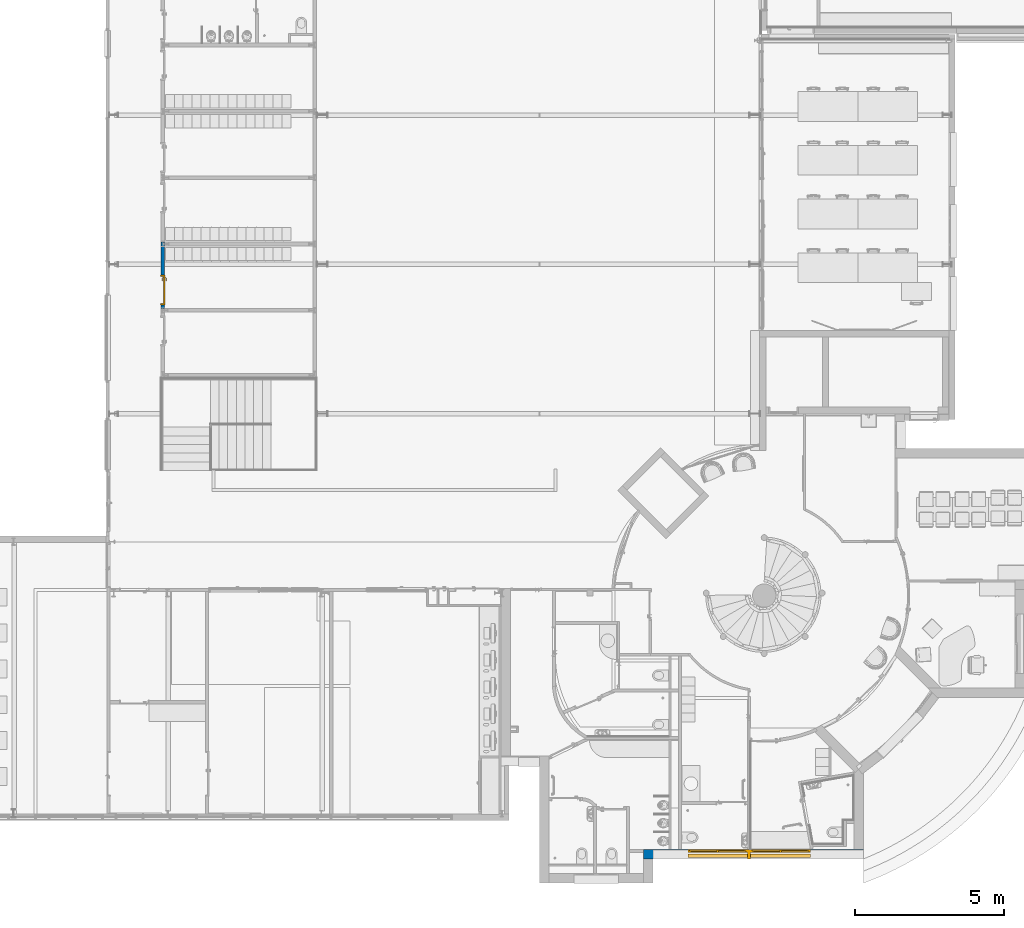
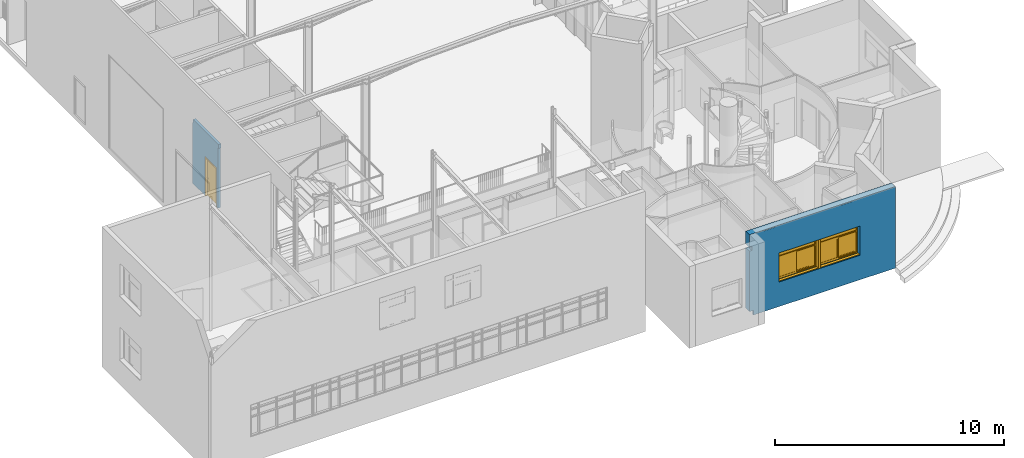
# One storey, part 70 of 137: 2 walls, 1 door, 1 window, 2 openings.
"""IFC2X3 building model written with IfcOpenShell, lengths in centimetres."""

from ifc_helpers import new_model, entity, si_unit, converted_unit, derived_unit, direction, frame, frame_2d, origin, origin_2d_with_axis, place, context, subcontext, project, spatial, polyline, rectangle, outline, extrude, faceted_brep, source, transform, mapped, material, material_list, layer, layer_set, type_object, type_shapes, element, fill, save


model = new_model("IFC2X3")

# Units and contexts
model_context = context("Model", 3, precision=0.001, world=origin(), true_north=direction((6.12303176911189e-17, 1.0)))
body_context = subcontext(model_context, "Body", "Model", "MODEL_VIEW")
ifc_project = project(units=[si_unit("LENGTHUNIT", "METRE", prefix="CENTI"), si_unit("AREAUNIT", "SQUARE_METRE"), si_unit("VOLUMEUNIT", "CUBIC_METRE"), converted_unit("PLANEANGLEUNIT", "DEGREE", entity("IfcRatioMeasure", 0.0174532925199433), si_unit("PLANEANGLEUNIT", "RADIAN"), dimensions=[0, 0, 0, 0, 0, 0, 0]), si_unit("MASSUNIT", "GRAM", prefix="KILO"), si_unit("TIMEUNIT", "SECOND"), si_unit("FREQUENCYUNIT", "HERTZ"), si_unit("THERMODYNAMICTEMPERATUREUNIT", "DEGREE_CELSIUS"), derived_unit("THERMALTRANSMITTANCEUNIT", [(si_unit("MASSUNIT", "GRAM", prefix="KILO"), 1), (si_unit("THERMODYNAMICTEMPERATUREUNIT", "KELVIN"), -1), (si_unit("TIMEUNIT", "SECOND"), -3)]), derived_unit("VOLUMETRICFLOWRATEUNIT", [(si_unit("LENGTHUNIT", "METRE"), 3), (si_unit("TIMEUNIT", "SECOND"), -1)]), si_unit("ELECTRICCURRENTUNIT", "AMPERE"), si_unit("ELECTRICVOLTAGEUNIT", "VOLT"), si_unit("POWERUNIT", "WATT"), si_unit("FORCEUNIT", "NEWTON", prefix="KILO"), si_unit("ILLUMINANCEUNIT", "LUX"), si_unit("LUMINOUSFLUXUNIT", "LUMEN"), si_unit("LUMINOUSINTENSITYUNIT", "CANDELA"), derived_unit("USERDEFINED", [(si_unit("MASSUNIT", "GRAM", prefix="KILO"), -1), (si_unit("LENGTHUNIT", "METRE"), -2), (si_unit("TIMEUNIT", "SECOND"), 3), (si_unit("LUMINOUSFLUXUNIT", "LUMEN"), 1)]), derived_unit("LINEARVELOCITYUNIT", [(si_unit("LENGTHUNIT", "METRE"), 1), (si_unit("TIMEUNIT", "SECOND"), -1)]), si_unit("PRESSUREUNIT", "PASCAL"), derived_unit("USERDEFINED", [(si_unit("LENGTHUNIT", "METRE"), -2), (si_unit("MASSUNIT", "GRAM", prefix="KILO"), 1), (si_unit("TIMEUNIT", "SECOND"), -2)])], contexts=[model_context])

# Site, building, storey
site_placement = place(None, frame((8.62739174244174, -249.285249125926, 0.0)))
site = spatial("IfcSite", under=ifc_project, at=site_placement, Name="Default", CompositionType="ELEMENT")
building_placement = place(site_placement, origin())
building = spatial("IfcBuilding", under=site, at=building_placement, CompositionType="ELEMENT")
storey_placement = place(building_placement, origin())
storey = spatial("IfcBuildingStorey", under=building, at=storey_placement, Name="RDC", CompositionType="ELEMENT", Elevation=-8.82465566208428e-11)

# Wall, opening, window
ifc_material_1 = material(Name="Maçonnerie - Enduit")
ifc_layer_1 = layer(ifc_material_1, 1.0)
ifc_material_2 = material(Name="Maçonnerie")
ifc_layer_2 = layer(ifc_material_2, 20.0)
ifc_material_3 = material(Name="Laine minérale")
ifc_layer_3 = layer(ifc_material_3, 10.0)
ifc_material_4 = material(Name="Plâtre")
ifc_layer_4 = layer(ifc_material_4, 1.0)
ifc_layer_set_1 = layer_set([ifc_layer_1, ifc_layer_2, ifc_layer_3, ifc_layer_4], Name="Mur de base:END 1 + PAR 20 + ISO 10 + PLA 1")
wall_type_1 = type_object("IfcWallType", Name="Mur de base:END 1 + PAR 20 + ISO 10 + PLA 1", PredefinedType="STANDARD", material=ifc_layer_set_1)
wall_1_placement = place(storey_placement, frame((2639.90482780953, -112.019791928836, -25.0)))
wall_1 = element("IfcWall", 1, at=wall_1_placement, inside=storey, type_object=wall_type_1, Name="Mur de base:END 1 + PAR 20 + ISO 10 + PLA 1", ObjectType="Mur de base:END 1 + PAR 20 + ISO 10 + PLA 1", context=body_context, shape_type="Brep", body=[
    faceted_brep([(558.500000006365, -16.0, 286.0), (558.500000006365, -16.0, 131.0), (358.500000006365, -16.0, 131.0), (348.500000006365, -16.0, 131.0), (148.500000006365, -16.0, 131.0), (148.500000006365, -16.0, 286.0), (348.500000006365, -16.0, 286.0), (358.500000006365, -16.0, 286.0), (21.0, -16.0, 0.0), (32.0, -16.0, 0.0), (736.0, -16.0, 0.0), (736.0, -16.0, 430.537482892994), (32.0, -16.0, 430.537482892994), (32.0, -16.0, 430.678904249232), (736.0, -16.0, 430.678904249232), (736.0, -16.0, 434.893440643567), (32.0, -16.0, 434.893440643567), (32.0, -16.0, 435.0), (0.0, -16.0, 435.0), (0.0, -16.0, 368.0), (12.0, -16.0, 368.0), (12.0, -16.0, 347.0), (0.0, -16.0, 347.0), (0.0, -16.0, 25.0), (21.0, -16.0, 25.0), (0.0, 16.0, 435.0), (704.0, 16.0, 435.0), (736.0, 16.0, 435.0), (736.0, 16.0, 25.0), (736.0, 16.0, 0.0), (725.0, 16.0, 0.0), (725.0, 16.0, 25.0), (704.0, 16.0, 25.0), (0.0, 16.0, 25.0), (0.0, 16.0, 347.0), (716.0, 16.0, 347.0), (716.0, 16.0, 368.0), (0.0, 16.0, 368.0), (558.500000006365, 16.0, 131.0), (558.500000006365, 16.0, 286.0), (358.500000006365, 16.0, 286.0), (348.500000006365, 16.0, 286.0), (148.500000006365, 16.0, 286.0), (148.500000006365, 16.0, 131.0), (348.500000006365, 16.0, 131.0), (358.500000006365, 16.0, 131.0), (32.0, 13.4559577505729, 435.0), (736.0, 13.4559577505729, 435.0), (736.0, 13.4559577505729, 429.993440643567), (736.0, 11.9559577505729, 429.993440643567), (736.0, 11.9559577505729, 430.093440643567), (736.0, 13.3559577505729, 430.093440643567), (736.0, 13.3559577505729, 434.893440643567), (736.0, -15.2005393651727, 431.478364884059), (736.0, -15.1298286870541, 431.40765420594), (736.0, 5.0, 0.0), (21.0, -5.0, 0.0), (725.0, -5.0, 0.0), (725.0, 5.0, 0.0), (725.0, -5.0, 25.0), (21.0, -5.0, 25.0), (12.0, 4.0, 347.0), (716.0, 4.0, 347.0), (716.0, 4.0, 368.0), (12.0, 4.0, 368.0), (32.0, -15.1298286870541, 431.40765420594), (32.0, -15.2005393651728, 431.478364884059), (32.0, 13.4559577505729, 429.993440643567), (32.0, 11.9559577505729, 429.993440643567), (32.0, 11.9559577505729, 430.093440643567), (32.0, 13.3559577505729, 430.093440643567), (32.0, 13.3559577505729, 434.893440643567)], [[[0, 1, 2, 3, 4, 5, 6, 7], [8, 9, 10, 11, 12, 13, 14, 15, 16, 17, 18, 19, 20, 21, 22, 23, 24]], [[25, 26, 27, 28, 29, 30, 31, 32, 33, 34, 35, 36, 37], [38, 39, 40, 41, 42, 43, 44, 45]], [[27, 26, 25, 18, 17, 46, 47]], [[29, 28, 27, 47, 48, 49, 50, 51, 52, 15, 14, 53, 54, 11, 10, 55]], [[39, 38, 1, 0]], [[39, 0, 7, 6, 5, 42, 41, 40]], [[43, 42, 5, 4]], [[43, 4, 3, 2, 1, 38, 45, 44]], [[33, 23, 22, 34]], [[55, 10, 9, 8, 56, 57, 58]], [[29, 55, 58, 30]], [[59, 60, 24, 23, 33, 32, 31]], [[57, 59, 31, 30, 58]], [[60, 59, 57, 56]], [[60, 56, 8, 24]], [[61, 62, 35, 34, 22, 21]], [[63, 64, 20, 19, 37, 36]], [[62, 63, 36, 35]], [[62, 61, 64, 63]], [[64, 61, 21, 20]], [[65, 66, 13, 12]], [[67, 68, 49, 48]], [[46, 67, 48, 47]], [[68, 69, 50, 49]], [[69, 70, 51, 50]], [[70, 71, 52, 51]], [[52, 71, 16, 15]], [[66, 53, 14, 13]], [[66, 65, 54, 53]], [[54, 65, 12, 11]], [[67, 46, 17, 16, 71, 70, 69, 68]], [[18, 25, 37, 19]]], outer=[[False, True], [True, False], [True], [True], [True], [True], [True], [True], [True], [True], [True], [True], [True], [True], [True], [True], [True], [True], [True], [True], [True], [True], [True], [True], [True], [True], [True], [True], [True], [True], [True], [True]]),
])
opening_1_placement = place(wall_1_placement, frame((558.500000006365, 16.0, 131.0)))
opening_1 = element("IfcOpeningElement", 2, at=opening_1_placement, cuts=wall_1, Name="2xC_200x115-I_200x40:2xC_200x115-I_200x40:1", ObjectType="Opening", context=body_context, shape_type="SweptSolid", body=[
    extrude(rectangle(XDim=155.0, YDim=410.0, at=frame_2d((77.5, 205.0), x_axis=(1.0, 0.0))), frame((0.0, 0.0, 0.0), z_axis=(0.0, -1.0, 0.0), x_axis=(0.0, 0.0, 1.0)), (0.0, 0.0, 1.0), 32.0),
])
ifc_material_5 = material(Name="Verre")
window_style = type_object("IfcWindowStyle", Name="2xC_200x115-I_200x40", ConstructionType="NOTDEFINED", OperationType="NOTDEFINED", ParameterTakesPrecedence=False, Sizeable=False, material=ifc_material_5)
shared_shape_1 = source(origin(), body_context, "Body", "SweptSolid", [
    extrude(outline(polyline([(-77.5000000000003, -100.0), (77.5000000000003, -100.0), (77.5000000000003, 100.0), (-77.5000000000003, 100.0), (-77.5000000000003, -100.0)]), holes=[polyline([(72.5000000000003, -95.0), (-72.5000000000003, -95.0), (-72.5000000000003, 95.0), (72.5000000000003, 95.0), (72.5000000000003, -95.0)])]), frame((310.0, 0.0, 77.4999999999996), z_axis=(0.0, 1.0, 0.0), x_axis=(0.0, 0.0, -1.0)), (0.0, 0.0, 1.0), 10.0),
    extrude(outline(polyline([(-4.0819498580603, -1.15506155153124), (7.9633333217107, -1.15506155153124), (7.92001851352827, -0.656941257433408), (-3.62337786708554, -0.65694125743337), (-3.83995190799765, 1.83366021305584), (-4.33807220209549, 1.79034540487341), (-4.0819498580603, -1.15506155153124)])), frame((210.0, 23.8333333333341, 1.15942028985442), z_axis=(1.0, 0.0, 0.0), x_axis=(0.0, -0.996240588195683, 0.0866296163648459)), (0.0, 0.0, 1.0), 200.0),
    extrude(rectangle(XDim=5.0, YDim=190.0, at=origin_2d_with_axis()), frame((310.0, 3.5, 120.0), z_axis=(0.0, 0.0, 1.0), x_axis=(0.0, 1.0, 0.0)), (0.0, 0.0, 1.0), 30.0),
    extrude(rectangle(XDim=10.0, YDim=190.0, at=frame_2d((0.0, 7.105427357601e-15), x_axis=(1.0, 0.0))), frame((310.0, 5.0, 115.0), z_axis=(0.0, 0.0, 1.0), x_axis=(0.0, 1.0, 0.0)), (0.0, 0.0, 1.0), 5.0),
    extrude(rectangle(XDim=3.0, YDim=87.5000000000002, at=frame_2d((-7.7715611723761e-16, 0.0), x_axis=(1.0, 0.0))), frame((356.25, 7.5, 10.0), z_axis=(0.0, 0.0, 1.0), x_axis=(0.0, 1.0, 0.0)), (0.0, 0.0, 1.0), 100.000000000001),
    extrude(rectangle(XDim=3.0, YDim=87.5000000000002, at=frame_2d((7.7715611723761e-16, 0.0), x_axis=(1.0, 0.0))), frame((263.75, 2.5, 10.0), z_axis=(0.0, 0.0, 1.0), x_axis=(0.0, 1.0, 0.0)), (0.0, 0.0, 1.0), 100.0),
    extrude(outline(polyline([(-55.0, -48.7499999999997), (55.0, -48.7499999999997), (55.0, 48.7499999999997), (-55.0, 48.7499999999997), (-55.0, -48.7499999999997)]), holes=[polyline([(50.0, -43.75), (-50.0, -43.75), (-50.0, 43.75), (50.0, 43.75), (50.0, -43.75)])]), frame((356.25, 5.0, 60.0), z_axis=(0.0, 1.0, 0.0), x_axis=(0.0, 0.0, -1.0)), (0.0, 0.0, 1.0), 5.00000000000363),
    extrude(outline(polyline([(-55.0, -48.7499999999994), (55.0, -48.7499999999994), (55.0, 48.7499999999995), (-55.0, 48.7499999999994), (-55.0, -48.7499999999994)]), holes=[polyline([(50.0, -43.75), (-50.0, -43.75), (-50.0, 43.75), (50.0, 43.7500000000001), (50.0, -43.75)])]), frame((263.75, 0.0, 60.0), z_axis=(0.0, 1.0, 0.0), x_axis=(0.0, 0.0, -1.0)), (0.0, 0.0, 1.0), 4.99999999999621),
    extrude(outline(polyline([(-77.5000000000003, -100.0), (77.5000000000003, -100.0), (77.5000000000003, 100.0), (-77.5000000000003, 100.0), (-77.5000000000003, -100.0)]), holes=[polyline([(72.5000000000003, -95.0), (-72.5000000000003, -95.0), (-72.5000000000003, 95.0), (72.5000000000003, 95.0), (72.5000000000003, -95.0)])]), frame((100.0, 0.0, 77.4999999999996), z_axis=(0.0, 1.0, 0.0), x_axis=(0.0, 0.0, -1.0)), (0.0, 0.0, 1.0), 10.0),
    extrude(outline(polyline([(-4.0819498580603, -1.15506155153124), (7.9633333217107, -1.15506155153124), (7.92001851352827, -0.656941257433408), (-3.62337786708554, -0.65694125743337), (-3.83995190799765, 1.83366021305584), (-4.33807220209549, 1.79034540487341), (-4.0819498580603, -1.15506155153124)])), frame((0.0, 23.8333333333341, 1.15942028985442), z_axis=(1.0, 0.0, 0.0), x_axis=(0.0, -0.996240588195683, 0.0866296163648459)), (0.0, 0.0, 1.0), 200.0),
    extrude(rectangle(XDim=5.0, YDim=190.0, at=origin_2d_with_axis()), frame((100.0, 3.5, 120.0), z_axis=(0.0, 0.0, 1.0), x_axis=(0.0, 1.0, 0.0)), (0.0, 0.0, 1.0), 30.0),
    extrude(rectangle(XDim=10.0, YDim=190.0, at=origin_2d_with_axis()), frame((100.0, 5.0, 115.0), z_axis=(0.0, 0.0, 1.0), x_axis=(0.0, 1.0, 0.0)), (0.0, 0.0, 1.0), 5.0),
    extrude(rectangle(XDim=3.0, YDim=87.5000000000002, at=frame_2d((-7.7715611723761e-16, 0.0), x_axis=(1.0, 0.0))), frame((146.25, 7.5, 10.0), z_axis=(0.0, 0.0, 1.0), x_axis=(0.0, 1.0, 0.0)), (0.0, 0.0, 1.0), 100.000000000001),
    extrude(rectangle(XDim=3.0, YDim=87.5000000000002, at=frame_2d((7.7715611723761e-16, 7.105427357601e-15), x_axis=(1.0, 0.0))), frame((53.75, 2.5, 10.0), z_axis=(0.0, 0.0, 1.0), x_axis=(0.0, 1.0, 0.0)), (0.0, 0.0, 1.0), 100.0),
    extrude(outline(polyline([(-55.0, -48.7499999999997), (55.0, -48.7499999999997), (55.0, 48.7499999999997), (-55.0, 48.7499999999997), (-55.0, -48.7499999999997)]), holes=[polyline([(50.0, -43.75), (-50.0, -43.75), (-50.0, 43.75), (50.0, 43.75), (50.0, -43.75)])]), frame((146.25, 5.0, 60.0), z_axis=(0.0, 1.0, 0.0), x_axis=(0.0, 0.0, -1.0)), (0.0, 0.0, 1.0), 5.00000000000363),
    extrude(outline(polyline([(-55.0, -48.7499999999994), (55.0, -48.7499999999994), (55.0, 48.7499999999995), (-55.0, 48.7499999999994), (-55.0, -48.7499999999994)]), holes=[polyline([(50.0, -43.75), (-50.0, -43.75), (-50.0, 43.75), (50.0, 43.7500000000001), (50.0, -43.75)])]), frame((53.75, 0.0, 60.0), z_axis=(0.0, 1.0, 0.0), x_axis=(0.0, 0.0, -1.0)), (0.0, 0.0, 1.0), 4.99999999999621),
    extrude(rectangle(XDim=9.99999999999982, YDim=32.0, at=origin_2d_with_axis()), frame((205.0, 16.0, 0.0)), (0.0, 0.0, 1.0), 155.0),
])
type_shapes(window_style, [shared_shape_1])
window_placement = place(opening_1_placement, frame((0.0, 0.0, 0.0), z_axis=(0.0, 0.0, 1.0), x_axis=(-1.0, 0.0, 0.0)))
window = element("IfcWindow", 3, at=window_placement, inside=storey, type_object=window_style, material=ifc_material_5, Name="2xC_200x115-I_200x40:2xC_200x115-I_200x40", ObjectType="2xC_200x115-I_200x40", OverallHeight=155.0, OverallWidth=410.0, context=body_context, shape_type="MappedRepresentation", body=[
    mapped(shared_shape_1, transform((0.0, 0.0, 0.0), scale=1.0)),
])
fill(opening_1, window)

# Wall, opening, door
ifc_material_6 = material(Name="Tôle/Doublage")
ifc_layer_5 = layer(ifc_material_6, 2.0)
ifc_layer_6 = layer(ifc_material_3, 9.5)
ifc_material_7 = material(Name="Plâtre_MU")
ifc_layer_7 = layer(ifc_material_7, 1.25)
ifc_layer_set_2 = layer_set([ifc_layer_5, ifc_layer_6, ifc_layer_7], Name="Mur de base:PLA 1.25 + ISO 9.5 + MET 4")
wall_type_2 = type_object("IfcWallType", Name="Mur de base:PLA 1.25 + ISO 9.5 + MET 4", PredefinedType="STANDARD", material=ifc_layer_set_2)
wall_2_placement = place(storey_placement, frame((1030.27982780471, 1936.48020806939, 0.0), z_axis=(0.0, 0.0, 1.0), x_axis=(0.0, -1.0, 0.0)))
wall_2 = element("IfcWall", 4, at=wall_2_placement, inside=storey, type_object=wall_type_2, Name="Mur de base:PLA 1.25 + ISO 9.5 + MET 4", ObjectType="Mur de base:PLA 1.25 + ISO 9.5 + MET 4", context=body_context, shape_type="Brep", body=[
    faceted_brep([(228.0, -6.37499999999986, 343.0), (6.0, -6.37499999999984, 343.0), (6.0, -6.37499999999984, 322.0), (0.0, -6.37499999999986, 322.0), (0.0, -6.37499999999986, 0.0), (110.0, -6.37499999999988, 0.0), (110.0, -6.37499999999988, 207.499999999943), (210.0, -6.37499999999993, 207.499999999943), (210.0, -6.37499999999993, 0.0), (222.0, -6.37499999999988, 0.0), (222.0, -6.37499999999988, 322.0), (228.0, -6.37499999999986, 322.0), (6.0, 6.37500000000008, 343.0), (228.0, 6.37500000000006, 343.0), (228.0, 6.37500000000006, 322.0), (222.0, 6.37500000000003, 322.0), (222.0, 6.37500000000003, 0.0), (210.0, 6.37499999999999, 0.0), (210.0, 6.37499999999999, 207.499999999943), (110.0, 6.37500000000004, 207.499999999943), (110.0, 6.37500000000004, 0.0), (12.0, 6.3750000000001, 0.0), (0.0, 6.37500000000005, 0.0), (0.0, 6.37500000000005, 322.0), (6.0, 6.37500000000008, 322.0)], [[[0, 1, 2, 3, 4, 5, 6, 7, 8, 9, 10, 11]], [[12, 13, 14, 15, 16, 17, 18, 19, 20, 21, 22, 23, 24]], [[7, 18, 17, 8]], [[18, 7, 6, 19]], [[19, 6, 5, 20]], [[10, 9, 16, 15]], [[4, 3, 23, 22]], [[16, 9, 8, 17]], [[1, 0, 13, 12]], [[2, 1, 12, 24]], [[2, 24, 23, 3]], [[14, 13, 0, 11]], [[14, 11, 10, 15]], [[4, 22, 21, 20, 5]]]),
])
opening_2_placement = place(wall_2_placement, frame((110.0, -6.37499999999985, 0.0)))
opening_2 = element("IfcOpeningElement", 5, at=opening_2_placement, cuts=wall_2, Name="Simple(R)_bois_mu:93 x 204 cm:1", ObjectType="Opening", context=body_context, shape_type="SweptSolid", body=[
    extrude(rectangle(XDim=207.499999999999, YDim=99.9999999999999, at=frame_2d((103.749999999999, 50.0), x_axis=(1.0, 0.0))), frame((0.0, 0.0, 0.0), z_axis=(0.0, 1.0, 0.0), x_axis=(0.0, 0.0, 1.0)), (0.0, 0.0, 1.0), 12.75),
])
ifc_material_8 = material(Name="Porte - Poignée")
ifc_material_9 = material(Name="Porte - Cadre")
ifc_material_10 = material(Name="Porte - Panneau")
ifc_material_list_1 = material_list([ifc_material_8, ifc_material_9, ifc_material_10])
ifc_material_list_2 = material_list([ifc_material_8, ifc_material_9, ifc_material_10])
door_style = type_object("IfcDoorStyle", Name="93 x 204 cm", ConstructionType="NOTDEFINED", OperationType="SINGLE_SWING_LEFT", ParameterTakesPrecedence=False, Sizeable=False, material=ifc_material_list_2)
shared_shape_2 = source(origin(), body_context, "Body", "Brep", [
    faceted_brep([(92.2025298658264, 3.69999999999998, 100.778044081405), (91.7974701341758, 3.69999999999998, 100.778044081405), (91.3999999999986, 3.69999999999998, 100.699999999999), (91.4000000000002, 3.69999999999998, 99.3000000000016), (91.7974701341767, 3.69999999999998, 99.2219559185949), (92.2025298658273, 3.69999999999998, 99.2219559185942), (92.6000000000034, 3.69999999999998, 99.2999999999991), (92.600000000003, 3.69999999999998, 100.699999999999), (91.3999999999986, 5.94852045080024, 100.699999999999), (91.3999999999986, 5.94852045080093, 99.3000000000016), (91.7974701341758, 6.11315797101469, 100.778044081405), (92.2025298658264, 6.2809392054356, 100.778044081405), (90.5838906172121, 7.89957845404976, 100.778044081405), (90.4161093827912, 7.49451872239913, 100.778044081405), (82.0793122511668, 7.49451872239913, 100.778044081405), (81.911531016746, 7.89957845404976, 100.778044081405), (81.1451046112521, 7.13315204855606, 100.778044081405), (81.4315250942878, 6.84673156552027, 100.778044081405), (92.600000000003, 6.44557672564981, 100.699999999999), (92.6000000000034, 6.44557672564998, 99.2999999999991), (92.2025298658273, 6.28093920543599, 99.2219559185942), (91.7974701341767, 6.11315797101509, 99.2219559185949), (90.4161093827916, 7.49451872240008, 99.2219559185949), (90.5838906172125, 7.8995784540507, 99.2219559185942), (81.9115310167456, 7.8995784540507, 99.2219559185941), (82.0793122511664, 7.49451872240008, 99.2219559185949), (81.4315250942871, 6.84673156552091, 99.2219559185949), (81.1451046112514, 7.13315204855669, 99.2219559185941), (90.2514718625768, 7.09704858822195, 100.699999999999), (90.2514718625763, 7.09704858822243, 99.3000000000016), (90.7485281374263, 8.29704858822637, 100.699999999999), (90.7485281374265, 8.29704858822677, 99.2999999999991), (86.247710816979, 7.09704858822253, 100.699999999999), (82.2439497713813, 7.09704858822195, 100.699999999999), (82.2439497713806, 7.09704858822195, 99.3000000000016), (86.247710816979, 7.09704858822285, 99.3000000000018), (86.2477108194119, 7.71249275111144, 100.787811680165), (85.7399422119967, 8.29704858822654, 100.699999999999), (81.7468934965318, 8.29704858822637, 100.699999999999), (86.7554791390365, 8.29704858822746, 99.2999999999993), (81.7468934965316, 8.29704858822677, 99.2999999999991), (86.2477107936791, 7.71249274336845, 99.2121883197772), (80.8640507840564, 7.41420587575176, 100.699999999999), (80.8640507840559, 7.41420587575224, 99.2999999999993), (81.7125789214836, 6.5656777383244, 99.3000000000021), (81.7125789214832, 6.56567773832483, 100.699999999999)], [[[0, 1, 2, 3, 4, 5, 6, 7]], [[8, 9, 3, 2]], [[1, 10, 8, 2]], [[1, 0, 11, 12, 13, 10]], [[14, 15, 16, 17]], [[7, 18, 11, 0]], [[18, 7, 6, 19]], [[6, 5, 20, 19]], [[5, 4, 21, 22, 23, 20]], [[24, 25, 26, 27]], [[4, 3, 9, 21]], [[28, 29, 9, 8]], [[8, 10, 13, 28]], [[18, 30, 12, 11]], [[31, 30, 18, 19]], [[19, 20, 23, 31]], [[21, 9, 29, 22]], [[29, 28, 32, 33, 34, 35]], [[36, 32, 13]], [[37, 38, 15]], [[37, 12, 30]], [[36, 12, 37]], [[14, 32, 36]], [[36, 15, 14]], [[28, 13, 32]], [[32, 14, 33]], [[12, 36, 13]], [[15, 36, 37]], [[30, 31, 39, 40, 38, 37]], [[23, 41, 39]], [[24, 39, 41]], [[39, 31, 23]], [[39, 24, 40]], [[22, 35, 41]], [[41, 23, 22]], [[41, 35, 25]], [[35, 22, 29]], [[34, 25, 35]], [[24, 41, 25]], [[17, 16, 42, 43, 27, 26, 44, 45]], [[45, 44, 34, 33]], [[33, 14, 17, 45]], [[15, 38, 42, 16]], [[43, 42, 38, 40]], [[24, 27, 43, 40]], [[34, 44, 26, 25]]]),
    faceted_brep([(91.7974701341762, -1.30000000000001, 100.778044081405), (92.2025298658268, -1.30000000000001, 100.778044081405), (92.6000000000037, -1.30000000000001, 100.699999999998), (92.6000000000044, -1.30000000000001, 99.2999999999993), (92.2025298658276, -1.30000000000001, 99.2219559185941), (91.797470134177, -1.30000000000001, 99.2219559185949), (91.3999999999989, -1.30000000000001, 99.3000000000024), (91.3999999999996, -1.30000000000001, 100.699999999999), (92.2025298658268, -3.90045754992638, 100.778044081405), (92.6000000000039, -4.06509507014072, 100.699999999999), (91.7974701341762, -3.73267631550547, 100.778044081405), (90.4298602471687, -5.10028620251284, 100.778044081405), (90.5976414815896, -5.50534593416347, 100.778044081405), (81.9142453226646, -5.50534593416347, 100.778044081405), (82.0820265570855, -5.10028620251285, 100.778044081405), (81.4342394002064, -4.4524990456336, 100.778044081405), (81.1478189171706, -4.73891952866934, 100.778044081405), (91.3999999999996, -3.56803879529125, 100.699999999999), (91.3999999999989, -3.56803879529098, 99.3000000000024), (91.797470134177, -3.7326763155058, 99.2219559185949), (92.2025298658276, -3.9004575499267, 99.2219559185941), (90.5976414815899, -5.50534593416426, 99.2219559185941), (90.429860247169, -5.10028620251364, 99.2219559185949), (82.0820265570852, -5.10028620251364, 99.2219559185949), (81.9142453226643, -5.50534593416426, 99.2219559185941), (81.14781891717, -4.73891952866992, 99.2219559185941), (81.4342394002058, -4.45249904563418, 99.2219559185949), (92.6000000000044, -4.06509507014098, 99.2999999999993), (90.762279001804, -5.90281606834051, 100.699999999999), (90.2652227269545, -4.70281606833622, 100.699999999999), (90.2652227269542, -4.70281606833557, 99.3000000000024), (90.7622790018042, -5.90281606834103, 99.2999999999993), (86.2559433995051, -5.31828027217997, 100.787811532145), (86.769230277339, -5.90281606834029, 100.699999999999), (81.7496078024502, -5.90281606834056, 100.699999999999), (86.255943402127, -4.70281606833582, 100.699999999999), (82.2466640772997, -4.70281606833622, 100.699999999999), (86.2559436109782, -4.70281606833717, 99.3000000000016), (82.2466640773, -4.70281606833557, 99.3000000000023), (86.2559434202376, -5.31828027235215, 99.2121884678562), (85.7426572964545, -5.90281606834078, 99.2999999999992), (81.74960780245, -5.90281606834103, 99.2999999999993), (81.7152932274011, -4.17144521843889, 99.3000000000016), (80.8667650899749, -5.01997335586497, 99.2999999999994), (80.8667650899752, -5.01997335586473, 100.699999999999), (81.7152932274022, -4.17144521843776, 100.699999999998)], [[[0, 1, 2, 3, 4, 5, 6, 7]], [[2, 1, 8, 9]], [[1, 0, 10, 11, 12, 8]], [[13, 14, 15, 16]], [[0, 7, 17, 10]], [[18, 17, 7, 6]], [[5, 19, 18, 6]], [[5, 4, 20, 21, 22, 19]], [[23, 24, 25, 26]], [[3, 27, 20, 4]], [[9, 27, 3, 2]], [[9, 8, 12, 28]], [[10, 17, 29, 11]], [[30, 29, 17, 18]], [[18, 19, 22, 30]], [[20, 27, 31, 21]], [[28, 31, 27, 9]], [[12, 32, 33]], [[13, 33, 32]], [[33, 28, 12]], [[33, 13, 34]], [[11, 35, 32]], [[32, 12, 11]], [[32, 35, 14]], [[35, 11, 29]], [[36, 14, 35]], [[13, 32, 14]], [[29, 30, 37, 38, 36, 35]], [[39, 37, 22]], [[40, 41, 24]], [[40, 21, 31]], [[39, 21, 40]], [[23, 37, 39]], [[39, 24, 23]], [[30, 22, 37]], [[37, 23, 38]], [[21, 39, 22]], [[24, 39, 40]], [[31, 28, 33, 34, 41, 40]], [[42, 26, 25, 43, 44, 16, 15, 45]], [[13, 16, 44, 34]], [[36, 45, 15, 14]], [[42, 45, 36, 38]], [[38, 23, 26, 42]], [[24, 41, 43, 25]], [[44, 43, 41, 34]]]),
    faceted_brep([(92.0, 3.19999999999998, 86.4641016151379), (93.0352761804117, 3.19999999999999, 86.6003983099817), (94.0, 3.19999999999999, 87.0), (94.0, 3.19999999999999, 108.0), (93.0352761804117, 3.19999999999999, 108.399601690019), (92.0, 3.19999999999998, 108.535898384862), (90.9647238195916, 3.19999999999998, 108.399601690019), (90.0, 3.19999999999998, 108.0), (90.0, 3.19999999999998, 87.0), (90.9647238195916, 3.19999999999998, 86.6003983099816), (92.0, 3.69999999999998, 108.535898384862), (93.0352761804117, 3.69999999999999, 108.399601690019), (94.0, 3.69999999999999, 108.0), (94.0, 3.69999999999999, 87.0), (93.0352761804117, 3.69999999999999, 86.6003983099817), (92.0, 3.69999999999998, 86.4641016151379), (90.9647238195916, 3.69999999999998, 86.6003983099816), (90.0, 3.69999999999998, 87.0), (90.0, 3.69999999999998, 108.0), (90.9647238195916, 3.69999999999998, 108.399601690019)], [[[0, 1, 2, 3, 4, 5, 6, 7, 8, 9]], [[10, 11, 12, 13, 14, 15, 16, 17, 18, 19]], [[6, 19, 18, 7]], [[5, 10, 19, 6]], [[4, 11, 10, 5]], [[4, 3, 12, 11]], [[12, 3, 2, 13]], [[1, 14, 13, 2]], [[0, 15, 14, 1]], [[9, 16, 15, 0]], [[9, 8, 17, 16]], [[17, 8, 7, 18]]]),
    faceted_brep([(92.0, -1.30000000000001, 86.4641016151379), (93.0352761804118, -1.30000000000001, 86.6003983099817), (94.0, -1.30000000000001, 87.0), (94.0, -1.30000000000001, 108.0), (93.0352761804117, -1.30000000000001, 108.399601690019), (92.0, -1.30000000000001, 108.535898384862), (90.9647238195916, -1.30000000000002, 108.399601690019), (90.0, -1.30000000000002, 108.0), (90.0, -1.30000000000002, 87.0), (90.9647238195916, -1.30000000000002, 86.6003983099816), (94.0, -0.800000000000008, 108.0), (94.0, -0.800000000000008, 87.0), (93.0352761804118, -0.800000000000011, 86.6003983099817), (92.0, -0.800000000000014, 86.4641016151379), (90.9647238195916, -0.800000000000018, 86.6003983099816), (90.0, -0.80000000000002, 87.0), (90.0, -0.80000000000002, 108.0), (90.9647238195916, -0.800000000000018, 108.399601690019), (92.0, -0.800000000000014, 108.535898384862), (93.0352761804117, -0.800000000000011, 108.399601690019)], [[[0, 1, 2, 3, 4, 5, 6, 7, 8, 9]], [[10, 11, 12, 13, 14, 15, 16, 17, 18, 19]], [[1, 12, 11, 2]], [[0, 13, 12, 1]], [[9, 14, 13, 0]], [[9, 8, 15, 14]], [[15, 8, 7, 16]], [[6, 17, 16, 7]], [[5, 18, 17, 6]], [[4, 19, 18, 5]], [[4, 3, 10, 19]], [[10, 3, 2, 11]]]),
    faceted_brep([(101.0, 0.0, 0.0), (102.0, 0.0, 0.0), (102.0, -0.799999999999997, 0.0), (97.5000000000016, -0.799999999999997, 0.0), (97.5000000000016, 3.2, 0.0), (96.5000000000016, 3.2, 0.0), (96.5000000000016, 13.5500000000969, 0.0), (102.0, 13.5500000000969, 0.0), (102.0, 12.750000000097, 0.0), (101.0, 12.750000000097, 0.0), (101.0, 12.750000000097, 207.499999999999), (101.0, 0.0, 207.499999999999), (102.0, 12.750000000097, 208.499999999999), (0.0, 12.750000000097, 208.499999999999), (0.0, 12.750000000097, 0.0), (1.0, 12.750000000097, 0.0), (1.0, 12.750000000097, 207.499999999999), (102.0, 13.5500000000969, 208.499999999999), (96.5000000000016, 13.5500000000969, 203.0), (5.50000000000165, 13.5500000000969, 203.0), (5.50000000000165, 13.5500000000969, 0.0), (0.0, 13.5500000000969, 0.0), (0.0, 13.5500000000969, 208.499999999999), (96.5000000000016, 3.2, 203.0), (97.5000000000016, 3.2, 204.0), (4.50000000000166, 3.2, 204.0), (4.50000000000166, 3.2, 0.0), (5.50000000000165, 3.2, 0.0), (5.50000000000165, 3.2, 203.0), (97.5000000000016, -0.799999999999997, 204.0), (102.0, -0.799999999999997, 208.499999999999), (0.0, -0.799999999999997, 208.499999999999), (0.0, -0.799999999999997, 0.0), (4.50000000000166, -0.799999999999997, 0.0), (4.50000000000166, -0.799999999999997, 204.0), (102.0, 0.0, 208.499999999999), (1.0, 0.0, 207.499999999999), (1.0, 0.0, 0.0), (0.0, 0.0, 0.0), (0.0, 0.0, 208.499999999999)], [[[0, 1, 2, 3, 4, 5, 6, 7, 8, 9]], [[9, 10, 11, 0]], [[8, 12, 13, 14, 15, 16, 10, 9]], [[7, 17, 12, 8]], [[6, 18, 19, 20, 21, 22, 17, 7]], [[5, 23, 18, 6]], [[4, 24, 25, 26, 27, 28, 23, 5]], [[3, 29, 24, 4]], [[2, 30, 31, 32, 33, 34, 29, 3]], [[1, 35, 30, 2]], [[0, 11, 36, 37, 38, 39, 35, 1]], [[16, 15, 37, 36]], [[37, 15, 14, 21, 20, 27, 26, 33, 32, 38]], [[22, 21, 14, 13]], [[28, 27, 20, 19]], [[34, 33, 26, 25]], [[39, 38, 32, 31]], [[10, 16, 36, 11]], [[17, 22, 13, 12]], [[23, 28, 19, 18]], [[29, 34, 25, 24]], [[35, 39, 31, 30]]]),
    faceted_brep([(97.5000000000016, -0.799999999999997, 204.0), (4.50000000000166, -0.799999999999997, 204.0), (4.50000000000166, -0.799999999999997, 0.0), (97.5000000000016, -0.799999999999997, 0.0), (97.5000000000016, 3.2, 204.0), (97.5000000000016, 3.2, 0.0), (4.50000000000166, 3.2, 0.0), (4.50000000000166, 3.2, 204.0)], [[[0, 1, 2, 3]], [[4, 5, 6, 7]], [[3, 5, 4, 0]], [[2, 6, 5, 3]], [[1, 7, 6, 2]], [[0, 4, 7, 1]]]),
])
type_shapes(door_style, [shared_shape_2])
door_placement = place(opening_2_placement, frame((101.0, 12.7499999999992, 0.0), z_axis=(0.0, 0.0, 1.0), x_axis=(-1.0, 0.0, 0.0)))
door = element("IfcDoor", 6, at=door_placement, inside=storey, type_object=door_style, material=ifc_material_list_1, Name="Simple(R)_bois_mu:93 x 204 cm", ObjectType="93 x 204 cm", OverallHeight=207.499999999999, OverallWidth=100.0, context=body_context, shape_type="MappedRepresentation", body=[
    mapped(shared_shape_2, transform((0.0, 0.0, 0.0), scale=1.0)),
])
fill(opening_2, door)

save(model, "model.ifc")
